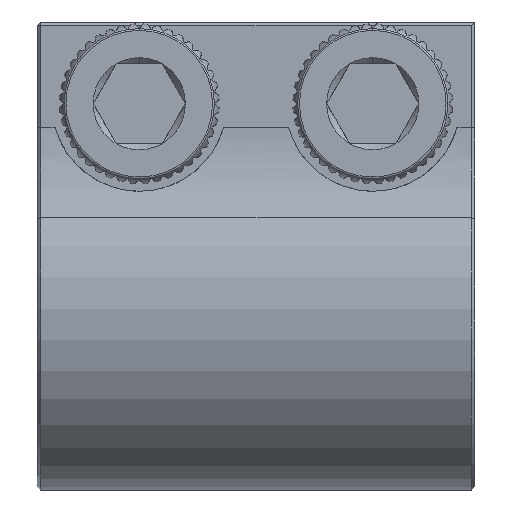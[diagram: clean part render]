
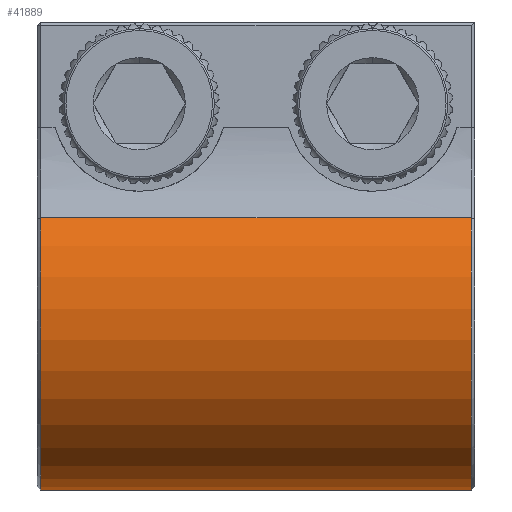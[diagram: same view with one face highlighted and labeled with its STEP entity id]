
A CAD part, left-side view. The second image highlights one B-rep face of the part: STEP entity #41889.
In plain terms, the highlighted cylindrical face has radius 6.35 mm (diameter 12.7 mm), a partial arc.
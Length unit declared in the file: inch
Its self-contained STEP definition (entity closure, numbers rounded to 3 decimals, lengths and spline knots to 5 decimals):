
#320 = VERTEX_POINT ( 'NONE', #34247 ) ;
#1376 = CARTESIAN_POINT ( 'NONE',  ( 0., 0.3, -0.25 ) ) ;
#1511 = ORIENTED_EDGE ( 'NONE', *, *, #43070, .T. ) ;
#1841 = EDGE_CURVE ( 'NONE', #11721, #34266, #41359, .T. ) ;
#2519 = FACE_OUTER_BOUND ( 'NONE', #40033, .T. ) ;
#2558 = ORIENTED_EDGE ( 'NONE', *, *, #1841, .T. ) ;
#3127 = DIRECTION ( 'NONE',  ( 0., -1., 0. ) ) ;
#3185 = DIRECTION ( 'NONE',  ( 0., 0., -1. ) ) ;
#4235 = CARTESIAN_POINT ( 'NONE',  ( -0.2175, 0.295, 0.12326 ) ) ;
#4467 = CIRCLE ( 'NONE', #30930, 0.25 ) ;
#5787 = DIRECTION ( 'NONE',  ( 0., 1., 0. ) ) ;
#7228 = CARTESIAN_POINT ( 'NONE',  ( 0., -0.295, 0. ) ) ;
#10125 = CYLINDRICAL_SURFACE ( 'NONE', #26213, 0.25 ) ;
#11721 = VERTEX_POINT ( 'NONE', #18761 ) ;
#12999 = CARTESIAN_POINT ( 'NONE',  ( -0.2175, 0.3, 0.12326 ) ) ;
#13530 = DIRECTION ( 'NONE',  ( 0., 0., 1. ) ) ;
#13660 = EDGE_CURVE ( 'NONE', #320, #34763, #13792, .T. ) ;
#13792 = LINE ( 'NONE', #1376, #21456 ) ;
#16063 = ORIENTED_EDGE ( 'NONE', *, *, #33490, .T. ) ;
#18761 = CARTESIAN_POINT ( 'NONE',  ( -0.2175, -0.295, 0.12326 ) ) ;
#21456 = VECTOR ( 'NONE', #21856, 39.37008 ) ;
#21511 = CIRCLE ( 'NONE', #33755, 0.25 ) ;
#21760 = CARTESIAN_POINT ( 'NONE',  ( 0., -0.295, -0.25 ) ) ;
#21856 = DIRECTION ( 'NONE',  ( 0., -1., 0. ) ) ;
#23886 = CARTESIAN_POINT ( 'NONE',  ( 0., 0.295, 0. ) ) ;
#26213 = AXIS2_PLACEMENT_3D ( 'NONE', #44894, #27464, #3185 ) ;
#27464 = DIRECTION ( 'NONE',  ( 0., -1., 0. ) ) ;
#30930 = AXIS2_PLACEMENT_3D ( 'NONE', #7228, #31522, #44882 ) ;
#31522 = DIRECTION ( 'NONE',  ( 0., 1., 0. ) ) ;
#33490 = EDGE_CURVE ( 'NONE', #34763, #11721, #4467, .T. ) ;
#33755 = AXIS2_PLACEMENT_3D ( 'NONE', #23886, #3127, #13530 ) ;
#34247 = CARTESIAN_POINT ( 'NONE',  ( 0., 0.295, -0.25 ) ) ;
#34266 = VERTEX_POINT ( 'NONE', #4235 ) ;
#34763 = VERTEX_POINT ( 'NONE', #21760 ) ;
#36554 = ORIENTED_EDGE ( 'NONE', *, *, #13660, .T. ) ;
#40033 = EDGE_LOOP ( 'NONE', ( #1511, #36554, #16063, #2558 ) ) ;
#41359 = LINE ( 'NONE', #12999, #43537 ) ;
#41889 = ADVANCED_FACE ( 'NONE', ( #2519 ), #10125, .T. ) ;
#43070 = EDGE_CURVE ( 'NONE', #34266, #320, #21511, .T. ) ;
#43537 = VECTOR ( 'NONE', #5787, 39.37008 ) ;
#44882 = DIRECTION ( 'NONE',  ( 0., 0., 1. ) ) ;
#44894 = CARTESIAN_POINT ( 'NONE',  ( 0., 0.3, 0. ) ) ;
